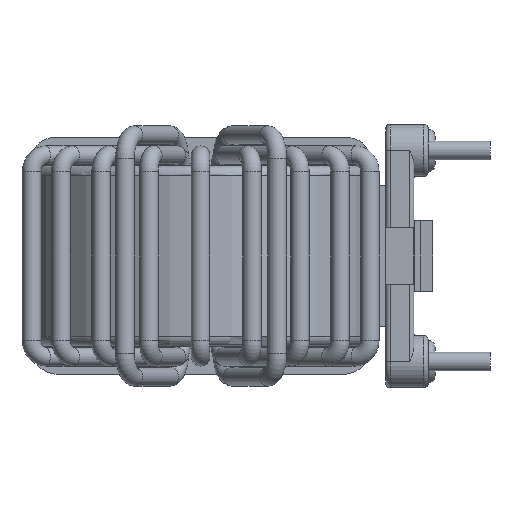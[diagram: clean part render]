
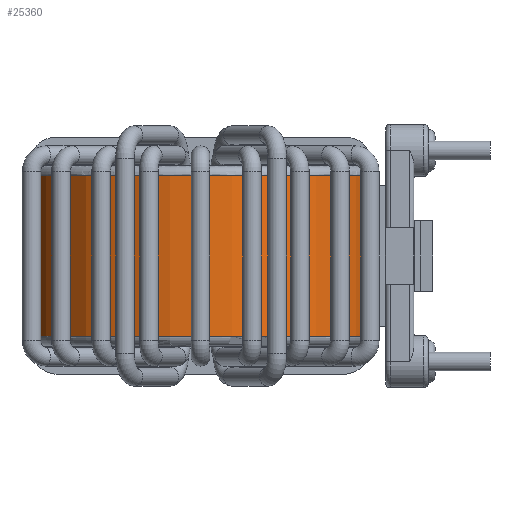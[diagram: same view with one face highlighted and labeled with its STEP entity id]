
A CAD part, left-side view. The second image highlights one B-rep face of the part: STEP entity #25360.
In plain terms, the highlighted cylindrical face has radius 12.7 mm (diameter 25.4 mm), a full revolution.
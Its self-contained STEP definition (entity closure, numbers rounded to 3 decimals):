
#485=FACE_BOUND('',#7463,.T.);
#486=FACE_BOUND('',#7464,.T.);
#1917=LINE('',#36962,#3848);
#1925=LINE('',#36981,#3856);
#1933=LINE('',#37000,#3864);
#1939=LINE('',#37015,#3870);
#1940=LINE('',#37030,#3871);
#3848=VECTOR('',#30208,10.);
#3856=VECTOR('',#30224,10.);
#3864=VECTOR('',#30240,10.);
#3870=VECTOR('',#30254,10.);
#3871=VECTOR('',#30273,12.7);
#5689=CYLINDRICAL_SURFACE('',#27337,12.7);
#6084=FACE_OUTER_BOUND('',#7462,.T.);
#7462=EDGE_LOOP('',(#17309,#17310,#17311,#17312,#17313));
#7463=EDGE_LOOP('',(#17314,#17315,#17316,#17317));
#7464=EDGE_LOOP('',(#17318,#17319,#17320,#17321));
#9185=CIRCLE('',#27330,12.7);
#9191=CIRCLE('',#27336,12.7);
#9192=CIRCLE('',#27338,12.7);
#9193=CIRCLE('',#27339,12.7);
#9194=CIRCLE('',#27340,12.7);
#9195=CIRCLE('',#27341,12.7);
#9196=CIRCLE('',#27342,12.7);
#10028=VERTEX_POINT('',#36955);
#10031=VERTEX_POINT('',#36960);
#10035=VERTEX_POINT('',#36974);
#10038=VERTEX_POINT('',#36979);
#10042=VERTEX_POINT('',#36993);
#10045=VERTEX_POINT('',#36998);
#10049=VERTEX_POINT('',#37011);
#10050=VERTEX_POINT('',#37013);
#10051=VERTEX_POINT('',#37017);
#10052=VERTEX_POINT('',#37018);
#10055=VERTEX_POINT('',#37029);
#12747=EDGE_CURVE('',#10031,#10028,#1917,.T.);
#12757=EDGE_CURVE('',#10038,#10035,#1925,.T.);
#12767=EDGE_CURVE('',#10045,#10042,#1933,.T.);
#12775=EDGE_CURVE('',#10050,#10049,#1939,.T.);
#12776=EDGE_CURVE('',#10051,#10052,#9185,.T.);
#12782=EDGE_CURVE('',#10052,#10051,#9191,.T.);
#12783=EDGE_CURVE('',#10051,#10055,#1940,.T.);
#12784=EDGE_CURVE('',#10055,#10055,#9192,.T.);
#12785=EDGE_CURVE('',#10031,#10042,#9193,.T.);
#12786=EDGE_CURVE('',#10045,#10028,#9194,.T.);
#12787=EDGE_CURVE('',#10038,#10049,#9195,.T.);
#12788=EDGE_CURVE('',#10050,#10035,#9196,.T.);
#17309=ORIENTED_EDGE('',*,*,#12776,.F.);
#17310=ORIENTED_EDGE('',*,*,#12783,.T.);
#17311=ORIENTED_EDGE('',*,*,#12784,.F.);
#17312=ORIENTED_EDGE('',*,*,#12783,.F.);
#17313=ORIENTED_EDGE('',*,*,#12782,.F.);
#17314=ORIENTED_EDGE('',*,*,#12785,.T.);
#17315=ORIENTED_EDGE('',*,*,#12767,.F.);
#17316=ORIENTED_EDGE('',*,*,#12786,.T.);
#17317=ORIENTED_EDGE('',*,*,#12747,.F.);
#17318=ORIENTED_EDGE('',*,*,#12787,.T.);
#17319=ORIENTED_EDGE('',*,*,#12775,.F.);
#17320=ORIENTED_EDGE('',*,*,#12788,.T.);
#17321=ORIENTED_EDGE('',*,*,#12757,.F.);
#25360=ADVANCED_FACE('',(#6084,#485,#486),#5689,.T.);
#27330=AXIS2_PLACEMENT_3D('',#37019,#30257,#30258);
#27336=AXIS2_PLACEMENT_3D('',#37027,#30269,#30270);
#27337=AXIS2_PLACEMENT_3D('',#37028,#30271,#30272);
#27338=AXIS2_PLACEMENT_3D('',#37031,#30274,#30275);
#27339=AXIS2_PLACEMENT_3D('',#37032,#30276,#30277);
#27340=AXIS2_PLACEMENT_3D('',#37033,#30278,#30279);
#27341=AXIS2_PLACEMENT_3D('',#37034,#30280,#30281);
#27342=AXIS2_PLACEMENT_3D('',#37035,#30282,#30283);
#30208=DIRECTION('',(0.,0.,-1.));
#30224=DIRECTION('',(0.,0.,1.));
#30240=DIRECTION('',(0.,0.,1.));
#30254=DIRECTION('',(0.,0.,-1.));
#30257=DIRECTION('center_axis',(0.,0.,
1.));
#30258=DIRECTION('ref_axis',(1.,0.,0.));
#30269=DIRECTION('center_axis',(0.,0.,
1.));
#30270=DIRECTION('ref_axis',(1.,0.,0.));
#30271=DIRECTION('center_axis',(0.,0.,
1.));
#30272=DIRECTION('ref_axis',(1.,0.,0.));
#30273=DIRECTION('',(0.,0.,-1.));
#30274=DIRECTION('center_axis',(0.,0.,
-1.));
#30275=DIRECTION('ref_axis',(1.,0.,0.));
#30276=DIRECTION('center_axis',(0.,0.,
1.));
#30277=DIRECTION('ref_axis',(1.,0.,0.));
#30278=DIRECTION('center_axis',(0.,0.,
-1.));
#30279=DIRECTION('ref_axis',(1.,0.,0.));
#30280=DIRECTION('center_axis',(0.,0.,
-1.));
#30281=DIRECTION('ref_axis',(1.,0.,0.));
#30282=DIRECTION('center_axis',(0.,0.,
1.));
#30283=DIRECTION('ref_axis',(1.,0.,0.));
#36955=CARTESIAN_POINT('',(2.886,2.782,-5.));
#36960=CARTESIAN_POINT('',(2.886,2.782,5.));
#36962=CARTESIAN_POINT('',(2.886,2.782,-5.2));
#36974=CARTESIAN_POINT('',(-2.886,2.782,5.));
#36979=CARTESIAN_POINT('',(-2.886,2.782,-5.));
#36981=CARTESIAN_POINT('',(-2.886,2.782,-5.2));
#36993=CARTESIAN_POINT('',(4.811,3.396,5.));
#36998=CARTESIAN_POINT('',(4.811,3.396,-5.));
#37000=CARTESIAN_POINT('',(4.811,3.396,-5.2));
#37011=CARTESIAN_POINT('',(-4.811,3.396,-5.));
#37013=CARTESIAN_POINT('',(-4.811,3.396,5.));
#37015=CARTESIAN_POINT('',(-4.811,3.396,-5.2));
#37017=CARTESIAN_POINT('',(-12.7,15.15,5.7));
#37018=CARTESIAN_POINT('',(12.7,15.15,5.7));
#37019=CARTESIAN_POINT('Origin',(0.,15.15,5.7));
#37027=CARTESIAN_POINT('Origin',(0.,15.15,5.7));
#37028=CARTESIAN_POINT('Origin',(0.,15.15,-5.2));
#37029=CARTESIAN_POINT('',(-12.7,15.15,-5.7));
#37030=CARTESIAN_POINT('',(-12.7,15.15,-5.2));
#37031=CARTESIAN_POINT('Origin',(0.,15.15,-5.7));
#37032=CARTESIAN_POINT('Origin',(0.,15.15,5.));
#37033=CARTESIAN_POINT('Origin',(0.,15.15,-5.));
#37034=CARTESIAN_POINT('Origin',(0.,15.15,-5.));
#37035=CARTESIAN_POINT('Origin',(0.,15.15,5.));
